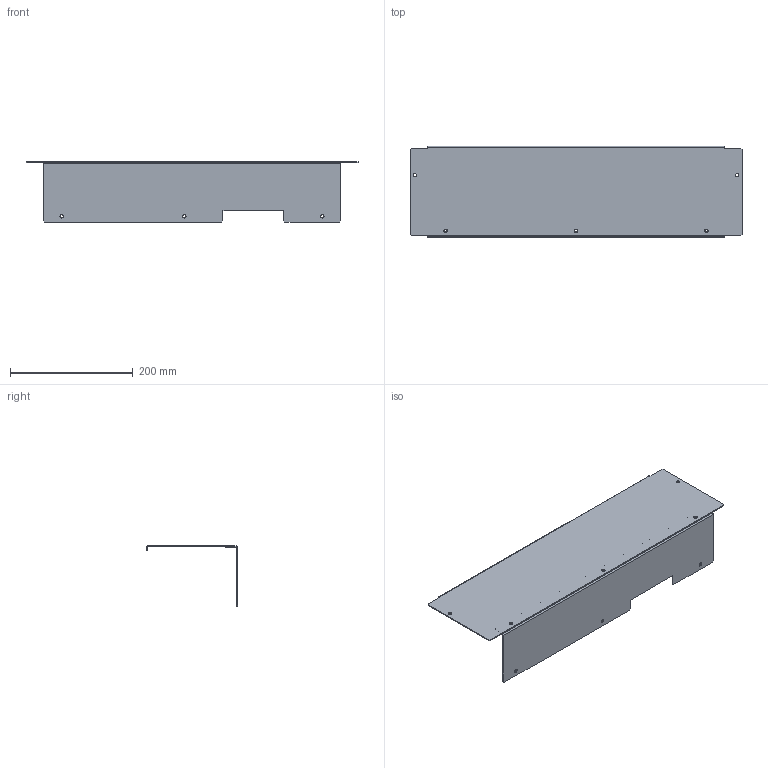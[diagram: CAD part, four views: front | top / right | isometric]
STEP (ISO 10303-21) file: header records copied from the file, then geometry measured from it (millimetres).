
FILE_DESCRIPTION(('CAx-IF Rec.Pracs.---Model Styling and Organization---1.2---2011-12-15','CAx-IF Rec.Pracs.---Geometric and Assembly Validation Properties---4.1---2014-06-16','CAx-IF Rec.Pracs.---PMI Polyline Presentation---2.0---2013-05-24'),'2;1');
FILE_NAME('R5M2CCS622.stp','2021-05-05T11:52:34+03:00',(''),(''),'STEP Interface 4.4 by CT CoreTechnologie','3D_Evolution4.4 by CT CoreTechnologie','');
FILE_SCHEMA(('AUTOMOTIVE_DESIGN { 1 0 10303 214 1 1 1 1 }'));
Length unit declared in the file: millimetre
Products named in the file (3): R5M2CCS622; RB.0858.00.00.0_-01; RB.0855.00.00.1_-00
Assembly tree (2 placements, depth 2):
  R5M2CCS622
    RB.0858.00.00.0_-01
    RB.0855.00.00.1_-00
Bounding box: 541 x 148.5 x 98.5 mm (x, y, z)
Surface area: 274509.1 mm2 (no closed solid volume)
Topology: 0 solids, 2 shells, 66 faces, 178 edges, 116 vertices
Faces by surface type: plane 40, cylinder 26
Entity records: 2232 total; most frequent: DIRECTION 368, CARTESIAN_POINT 363, ORIENTED_EDGE 356, EDGE_CURVE 178, VECTOR 126, LINE 126, AXIS2_PLACEMENT_3D 121, VERTEX_POINT 116
